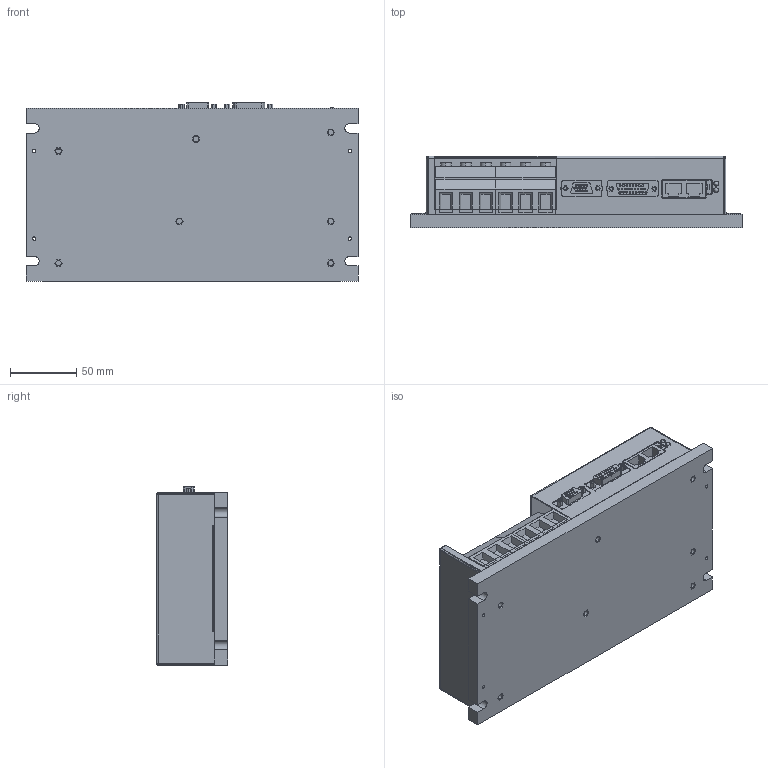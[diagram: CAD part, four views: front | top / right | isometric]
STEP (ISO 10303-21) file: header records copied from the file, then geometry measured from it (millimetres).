
FILE_DESCRIPTION (( 'STEP AP214' ), '1' );
FILE_NAME ('95200（70140）.STEP', '2023-06-21T02:56:18', ( '' ), ( '' ), 'SwSTEP 2.0', 'SolidWorks 2018', '' );
FILE_SCHEMA (( 'AUTOMOTIVE_DESIGN' ));
Length unit declared in the file: millimetre
Products named in the file (12): 蚾饜极; CAN 傷赽; 12次萇郯恁寁; 腑; DB15; IXL100200 俋褲; IXL100200 菁啣; RS485傷赽; DB26; P2秶雄惕掅傷赽; 萇埭諉芛 遵45 100200; 95200ㄗ70140ㄘ
Assembly tree (12 placements, depth 3):
  95200ㄗ70140ㄘ
    蚾饜极
      IXL100200 菁啣
      IXL100200 俋褲
    CAN 傷赽
    DB15
    DB26
    RS485傷赽
    P2秶雄惕掅傷赽
    腑
    12次萇郯恁寁
    萇埭諉芛 遵45 100200  x2
Bounding box: 250 x 53.8 x 134.2 mm (x, y, z)
Volume: 458600.7 mm3; surface area: 212228.5 mm2
Topology: 11 solids, 11 shells, 821 faces, 1984 edges, 1292 vertices
Faces by surface type: plane 591, cylinder 208, bspline 22
Entity records: 27508 total; most frequent: CARTESIAN_POINT 4698, DIRECTION 3761, ORIENTED_EDGE 3742, EDGE_CURVE 1871, LINE 1455, VECTOR 1455, VERTEX_POINT 1222, AXIS2_PLACEMENT_3D 1153
